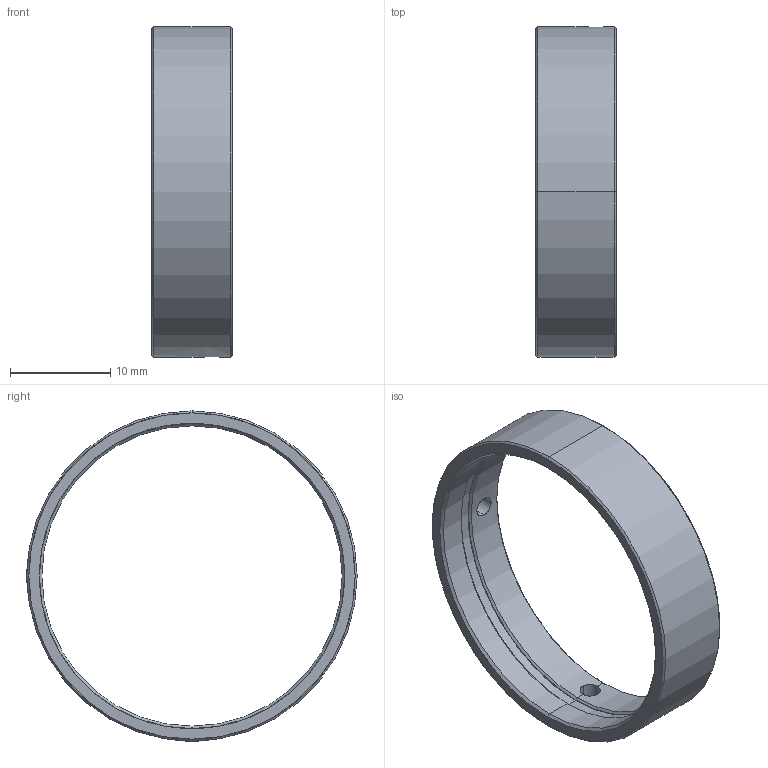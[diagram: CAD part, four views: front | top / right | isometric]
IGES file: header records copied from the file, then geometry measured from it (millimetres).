
Start section: SolidWorks IGES file using analytic representation for surfaces
Global section: file name: \\192.168.200.11\Development\3 製品\1 標準品\07 オプション\04 SV-FAD series\SV-FAD30-305\10.3D外観モデル\SV-FAD30-305.IGS; native system: SolidWorks 2020; preprocessor: SolidWorks 2020; author: sugiyama_vst; date: 200729.101146; units: millimetre
Bounding box: 8 x 33 x 33 mm (x, y, z)
Surface area: 1861.8 mm2 (no closed solid volume)
Topology: 0 solids, 0 shells, 27 faces, 668 edges, 668 vertices
Faces by surface type: revolution 24, bspline 3
